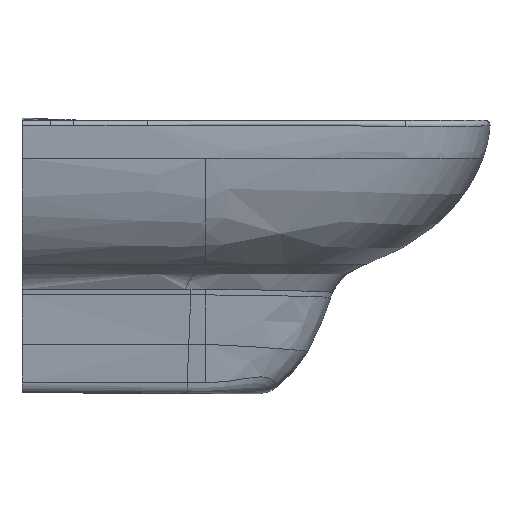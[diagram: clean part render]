
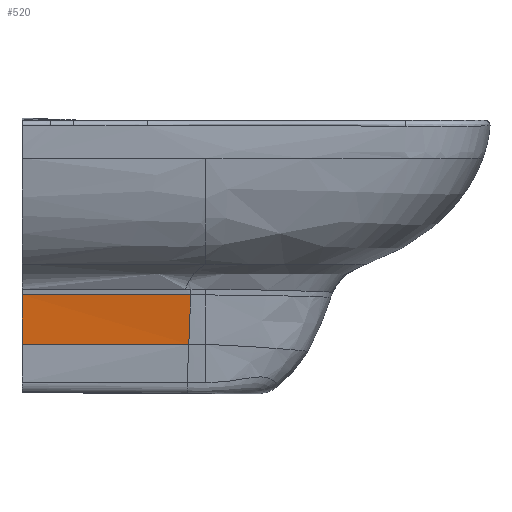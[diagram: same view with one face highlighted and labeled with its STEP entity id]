
A CAD part, left-side view. The second image highlights one B-rep face of the part: STEP entity #520.
In plain terms, the highlighted free-form (B-spline) face has degree [3, 3] with [7, 7] control points.
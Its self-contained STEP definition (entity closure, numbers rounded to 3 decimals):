
#179=B_SPLINE_SURFACE_WITH_KNOTS('',3,3,((#29670,#29671,#29672,#29673,#29674,
#29675,#29676),(#29677,#29678,#29679,#29680,#29681,#29682,#29683),(#29684,
#29685,#29686,#29687,#29688,#29689,#29690),(#29691,#29692,#29693,#29694,
#29695,#29696,#29697),(#29698,#29699,#29700,#29701,#29702,#29703,#29704),
(#29705,#29706,#29707,#29708,#29709,#29710,#29711),(#29712,#29713,#29714,
#29715,#29716,#29717,#29718)),.UNSPECIFIED.,.F.,.F.,.F.,(4,3,4),(4,3,4),
(0.,0.01,1.),(0.,0.99,1.),.UNSPECIFIED.);
#330=B_SPLINE_CURVE_WITH_KNOTS('',3,(#17466,#17467,#17468,#17469),
 .UNSPECIFIED.,.F.,.F.,(4,4),(0.,1.),.UNSPECIFIED.);
#389=B_SPLINE_CURVE_WITH_KNOTS('',3,(#23924,#23925,#23926,#23927),
 .UNSPECIFIED.,.F.,.F.,(4,4),(0.,1.),.UNSPECIFIED.);
#400=B_SPLINE_CURVE_WITH_KNOTS('',3,(#29661,#29662,#29663,#29664),
 .UNSPECIFIED.,.F.,.F.,(4,4),(0.,1.),.UNSPECIFIED.);
#401=B_SPLINE_CURVE_WITH_KNOTS('',3,(#29666,#29667,#29668,#29669),
 .UNSPECIFIED.,.F.,.F.,(4,4),(0.,1.),.UNSPECIFIED.);
#520=ADVANCED_FACE('',(#636),#179,.F.);
#636=FACE_OUTER_BOUND('',#749,.T.);
#749=EDGE_LOOP('',(#1248,#1249,#1250,#1251));
#1248=ORIENTED_EDGE('',*,*,#1757,.F.);
#1249=ORIENTED_EDGE('',*,*,#1673,.T.);
#1250=ORIENTED_EDGE('',*,*,#1742,.T.);
#1251=ORIENTED_EDGE('',*,*,#1758,.F.);
#1444=VERTEX_POINT('',#17465);
#1445=VERTEX_POINT('',#17470);
#1484=VERTEX_POINT('',#23923);
#1491=VERTEX_POINT('',#29665);
#1673=EDGE_CURVE('',#1445,#1444,#330,.T.);
#1742=EDGE_CURVE('',#1444,#1484,#389,.T.);
#1757=EDGE_CURVE('',#1445,#1491,#400,.T.);
#1758=EDGE_CURVE('',#1491,#1484,#401,.T.);
#17465=CARTESIAN_POINT('',(-87.466,0.,-67.543));
#17466=CARTESIAN_POINT('',(-94.76,0.,-8.471));
#17467=CARTESIAN_POINT('',(-92.328,0.,-28.162));
#17468=CARTESIAN_POINT('',(-89.897,0.,-47.852));
#17469=CARTESIAN_POINT('',(-87.466,0.,-67.543));
#17470=CARTESIAN_POINT('',(-94.76,0.,-8.471));
#23923=CARTESIAN_POINT('',(-73.079,-199.544,-67.655));
#23924=CARTESIAN_POINT('',(-87.466,0.,-67.543));
#23925=CARTESIAN_POINT('',(-82.964,-74.016,-67.581));
#23926=CARTESIAN_POINT('',(-78.322,-140.071,-67.618));
#23927=CARTESIAN_POINT('',(-73.079,-199.544,-67.655));
#29661=CARTESIAN_POINT('',(-94.76,0.,-8.471));
#29662=CARTESIAN_POINT('',(-91.223,-82.271,-8.5));
#29663=CARTESIAN_POINT('',(-87.407,-148.673,-8.53));
#29664=CARTESIAN_POINT('',(-82.395,-201.953,-8.56));
#29665=CARTESIAN_POINT('',(-82.395,-201.953,-8.56));
#29666=CARTESIAN_POINT('',(-82.395,-201.953,-8.56));
#29667=CARTESIAN_POINT('',(-79.426,-201.15,-28.281));
#29668=CARTESIAN_POINT('',(-76.321,-200.347,-47.979));
#29669=CARTESIAN_POINT('',(-73.079,-199.544,-67.655));
#29670=CARTESIAN_POINT('',(-94.866,2.468,-8.47));
#29671=CARTESIAN_POINT('',(-92.443,2.386,-28.16));
#29672=CARTESIAN_POINT('',(-90.021,2.303,-47.851));
#29673=CARTESIAN_POINT('',(-87.601,2.22,-67.542));
#29674=CARTESIAN_POINT('',(-87.577,2.22,-67.739));
#29675=CARTESIAN_POINT('',(-87.553,2.219,-67.936));
#29676=CARTESIAN_POINT('',(-87.528,2.218,-68.133));
#29677=CARTESIAN_POINT('',(-94.83,1.645,-8.47));
#29678=CARTESIAN_POINT('',(-92.405,1.59,-28.161));
#29679=CARTESIAN_POINT('',(-89.98,1.535,-47.852));
#29680=CARTESIAN_POINT('',(-87.556,1.48,-67.542));
#29681=CARTESIAN_POINT('',(-87.532,1.48,-67.739));
#29682=CARTESIAN_POINT('',(-87.507,1.479,-67.936));
#29683=CARTESIAN_POINT('',(-87.483,1.479,-68.133));
#29684=CARTESIAN_POINT('',(-94.795,0.823,-8.47));
#29685=CARTESIAN_POINT('',(-92.366,0.795,-28.161));
#29686=CARTESIAN_POINT('',(-89.938,0.768,-47.852));
#29687=CARTESIAN_POINT('',(-87.511,0.74,-67.543));
#29688=CARTESIAN_POINT('',(-87.487,0.74,-67.74));
#29689=CARTESIAN_POINT('',(-87.462,0.74,-67.937));
#29690=CARTESIAN_POINT('',(-87.438,0.739,-68.134));
#29691=CARTESIAN_POINT('',(-94.76,0.,-8.471));
#29692=CARTESIAN_POINT('',(-92.328,0.,-28.162));
#29693=CARTESIAN_POINT('',(-89.897,0.,-47.852));
#29694=CARTESIAN_POINT('',(-87.466,0.,-67.543));
#29695=CARTESIAN_POINT('',(-87.442,0.,-67.74));
#29696=CARTESIAN_POINT('',(-87.417,0.,-67.937));
#29697=CARTESIAN_POINT('',(-87.393,0.,-68.134));
#29698=CARTESIAN_POINT('',(-91.223,-82.271,-8.5));
#29699=CARTESIAN_POINT('',(-88.516,-79.519,-28.201));
#29700=CARTESIAN_POINT('',(-85.762,-76.768,-47.895));
#29701=CARTESIAN_POINT('',(-82.964,-74.016,-67.581));
#29702=CARTESIAN_POINT('',(-82.936,-73.988,-67.777));
#29703=CARTESIAN_POINT('',(-82.908,-73.961,-67.974));
#29704=CARTESIAN_POINT('',(-82.88,-73.933,-68.171));
#29705=CARTESIAN_POINT('',(-87.407,-148.673,-8.53));
#29706=CARTESIAN_POINT('',(-84.469,-145.805,-28.241));
#29707=CARTESIAN_POINT('',(-81.441,-142.938,-47.937));
#29708=CARTESIAN_POINT('',(-78.322,-140.071,-67.618));
#29709=CARTESIAN_POINT('',(-78.29,-140.042,-67.815));
#29710=CARTESIAN_POINT('',(-78.259,-140.014,-68.011));
#29711=CARTESIAN_POINT('',(-78.228,-139.985,-68.208));
#29712=CARTESIAN_POINT('',(-82.395,-201.953,-8.56));
#29713=CARTESIAN_POINT('',(-79.426,-201.15,-28.281));
#29714=CARTESIAN_POINT('',(-76.321,-200.347,-47.979));
#29715=CARTESIAN_POINT('',(-73.079,-199.544,-67.655));
#29716=CARTESIAN_POINT('',(-73.047,-199.536,-67.852));
#29717=CARTESIAN_POINT('',(-73.015,-199.528,-68.049));
#29718=CARTESIAN_POINT('',(-72.982,-199.52,-68.245));
